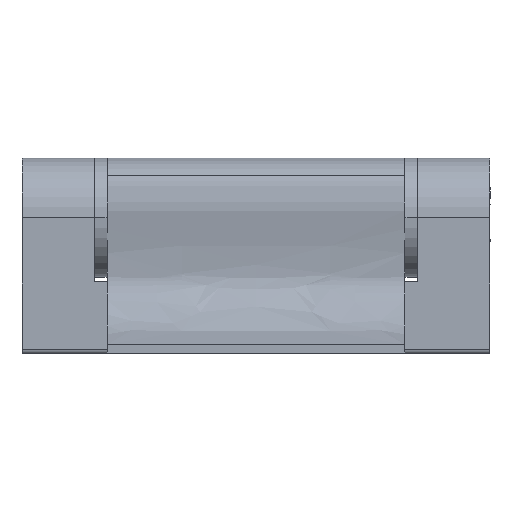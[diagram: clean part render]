
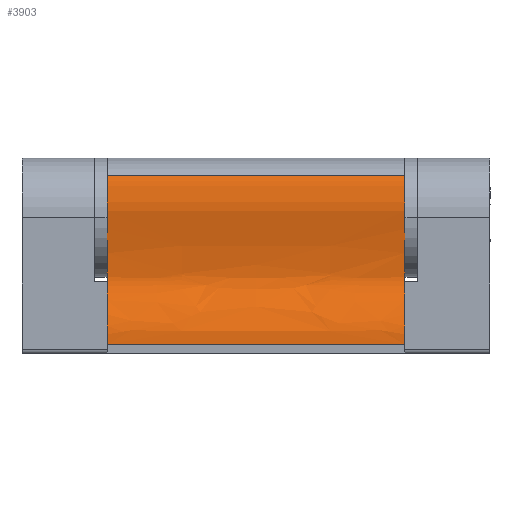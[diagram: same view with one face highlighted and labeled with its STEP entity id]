
A CAD part, top view. The second image highlights one B-rep face of the part: STEP entity #3903.
In plain terms, the highlighted free-form (B-spline) face has degree [3, 1] with [9, 2] control points.
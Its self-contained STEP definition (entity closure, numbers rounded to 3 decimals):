
#275 = CARTESIAN_POINT ( 'NONE',  ( -6.866, 19.746, -17.5 ) ) ;
#295 = CARTESIAN_POINT ( 'NONE',  ( -1.07, 16.602, -17.5 ) ) ;
#555 = VERTEX_POINT ( 'NONE', #1491 ) ;
#591 = CARTESIAN_POINT ( 'NONE',  ( -8.01, 20.909, 17.5 ) ) ;
#643 = EDGE_CURVE ( 'NONE', #555, #6145, #8031, .T. ) ;
#741 = CARTESIAN_POINT ( 'NONE',  ( 28.913, 11.271, 17.5 ) ) ;
#788 = CARTESIAN_POINT ( 'NONE',  ( -8.01, 20.909, 17.5 ) ) ;
#876 = CARTESIAN_POINT ( 'NONE',  ( 40., 1., 17.5 ) ) ;
#1317 = CARTESIAN_POINT ( 'NONE',  ( 40., 1.556, 17.5 ) ) ;
#1319 = B_SPLINE_CURVE_WITH_KNOTS ( 'NONE', 3,
 ( #2182, #5517, #1731, #3590, #4930, #2936, #295, #3022, #2303 ),
 .UNSPECIFIED., .F., .F.,
 ( 4, 1, 1, 1, 1, 1, 4 ),
 ( 0., 0.173, 0.204, 0.314, 0.739, 0.876, 1. ),
 .UNSPECIFIED. ) ;
#1343 = LINE ( 'NONE', #4944, #4436 ) ;
#1398 = VERTEX_POINT ( 'NONE', #2908 ) ;
#1404 = CARTESIAN_POINT ( 'NONE',  ( 36.789, 8.35, 17.5 ) ) ;
#1445 = CARTESIAN_POINT ( 'NONE',  ( 12.391, 14.746, -17.5 ) ) ;
#1491 = CARTESIAN_POINT ( 'NONE',  ( 40., 1., 17.5 ) ) ;
#1565 = CARTESIAN_POINT ( 'NONE',  ( 40.264, 3.444, 17.5 ) ) ;
#1731 = CARTESIAN_POINT ( 'NONE',  ( 40.264, 3.444, -17.5 ) ) ;
#2054 = CARTESIAN_POINT ( 'NONE',  ( -1.07, 16.602, 17.5 ) ) ;
#2168 = CARTESIAN_POINT ( 'NONE',  ( -8.01, 20.909, -17.5 ) ) ;
#2182 = CARTESIAN_POINT ( 'NONE',  ( 40., 1., -17.5 ) ) ;
#2224 = CARTESIAN_POINT ( 'NONE',  ( 36.789, 8.35, -17.5 ) ) ;
#2226 = DIRECTION ( 'NONE',  ( 0., 0., -1. ) ) ;
#2303 = CARTESIAN_POINT ( 'NONE',  ( -8.01, 20.909, -17.5 ) ) ;
#2476 = CARTESIAN_POINT ( 'NONE',  ( -8.01, 20.909, 17.5 ) ) ;
#2719 = CARTESIAN_POINT ( 'NONE',  ( -8.01, 20.909, 17.5 ) ) ;
#2771 = FACE_OUTER_BOUND ( 'NONE', #7433, .T. ) ;
#2887 = CARTESIAN_POINT ( 'NONE',  ( 12.391, 14.746, 17.5 ) ) ;
#2908 = CARTESIAN_POINT ( 'NONE',  ( 40., 1., -17.5 ) ) ;
#2936 = CARTESIAN_POINT ( 'NONE',  ( 12.391, 14.746, -17.5 ) ) ;
#3022 = CARTESIAN_POINT ( 'NONE',  ( -6.866, 19.746, -17.5 ) ) ;
#3182 = EDGE_CURVE ( 'NONE', #555, #1398, #1343, .T. ) ;
#3262 = ORIENTED_EDGE ( 'NONE', *, *, #7032, .T. ) ;
#3512 = CARTESIAN_POINT ( 'NONE',  ( -1.07, 16.602, -17.5 ) ) ;
#3520 = LINE ( 'NONE', #591, #8105 ) ;
#3590 = CARTESIAN_POINT ( 'NONE',  ( 36.789, 8.35, -17.5 ) ) ;
#3903 = ADVANCED_FACE ( 'NONE', ( #2771 ), #8536, .F. ) ;
#4163 = CARTESIAN_POINT ( 'NONE',  ( 40., 1.556, -17.5 ) ) ;
#4191 = CARTESIAN_POINT ( 'NONE',  ( -1.07, 16.602, 17.5 ) ) ;
#4223 = CARTESIAN_POINT ( 'NONE',  ( 36.789, 8.35, 17.5 ) ) ;
#4436 = VECTOR ( 'NONE', #2226, 1000. ) ;
#4484 = DIRECTION ( 'NONE',  ( 0., 0., -1. ) ) ;
#4562 = VERTEX_POINT ( 'NONE', #7070 ) ;
#4713 = CARTESIAN_POINT ( 'NONE',  ( -6.866, 19.746, 17.5 ) ) ;
#4825 = CARTESIAN_POINT ( 'NONE',  ( -6.866, 19.746, 17.5 ) ) ;
#4930 = CARTESIAN_POINT ( 'NONE',  ( 28.913, 11.271, -17.5 ) ) ;
#4944 = CARTESIAN_POINT ( 'NONE',  ( 40., 1., 17.5 ) ) ;
#5271 = CARTESIAN_POINT ( 'NONE',  ( 40., 1., 17.5 ) ) ;
#5325 = ORIENTED_EDGE ( 'NONE', *, *, #643, .F. ) ;
#5472 = CARTESIAN_POINT ( 'NONE',  ( 40., 1.556, 17.5 ) ) ;
#5517 = CARTESIAN_POINT ( 'NONE',  ( 40., 1.556, -17.5 ) ) ;
#5531 = CARTESIAN_POINT ( 'NONE',  ( 40.264, 3.444, -17.5 ) ) ;
#5968 = CARTESIAN_POINT ( 'NONE',  ( 40.264, 3.444, 17.5 ) ) ;
#6098 = CARTESIAN_POINT ( 'NONE',  ( 40., 1., -17.5 ) ) ;
#6140 = EDGE_CURVE ( 'NONE', #6145, #4562, #3520, .T. ) ;
#6145 = VERTEX_POINT ( 'NONE', #2476 ) ;
#6692 = CARTESIAN_POINT ( 'NONE',  ( 12.391, 14.746, 17.5 ) ) ;
#6794 = ORIENTED_EDGE ( 'NONE', *, *, #6140, .F. ) ;
#6864 = CARTESIAN_POINT ( 'NONE',  ( 28.913, 11.271, 17.5 ) ) ;
#6875 = ORIENTED_EDGE ( 'NONE', *, *, #3182, .T. ) ;
#7032 = EDGE_CURVE ( 'NONE', #1398, #4562, #1319, .T. ) ;
#7070 = CARTESIAN_POINT ( 'NONE',  ( -8.01, 20.909, -17.5 ) ) ;
#7433 = EDGE_LOOP ( 'NONE', ( #3262, #6794, #5325, #6875 ) ) ;
#7456 = CARTESIAN_POINT ( 'NONE',  ( 28.913, 11.271, -17.5 ) ) ;
#8031 = B_SPLINE_CURVE_WITH_KNOTS ( 'NONE', 3,
 ( #5271, #1317, #5968, #1404, #741, #6692, #2054, #4713, #2719 ),
 .UNSPECIFIED., .F., .F.,
 ( 4, 1, 1, 1, 1, 1, 4 ),
 ( 0., 0.173, 0.204, 0.314, 0.739, 0.876, 1. ),
 .UNSPECIFIED. ) ;
#8105 = VECTOR ( 'NONE', #4484, 1000. ) ;
#8536 = B_SPLINE_SURFACE_WITH_KNOTS ( 'NONE', 3, 1, ( 
 ( #876, #6098 ),
 ( #5472, #4163 ),
 ( #1565, #5531 ),
 ( #4223, #2224 ),
 ( #6864, #7456 ),
 ( #2887, #1445 ),
 ( #4191, #3512 ),
 ( #4825, #275 ),
 ( #788, #2168 ) ),
 .UNSPECIFIED., .F., .F., .F.,
 ( 4, 1, 1, 1, 1, 1, 4 ),
 ( 2, 2 ),
 ( 0., 0.173, 0.204, 0.314, 0.739, 0.876, 1. ),
 ( 0., 1. ),
 .UNSPECIFIED. ) ;
